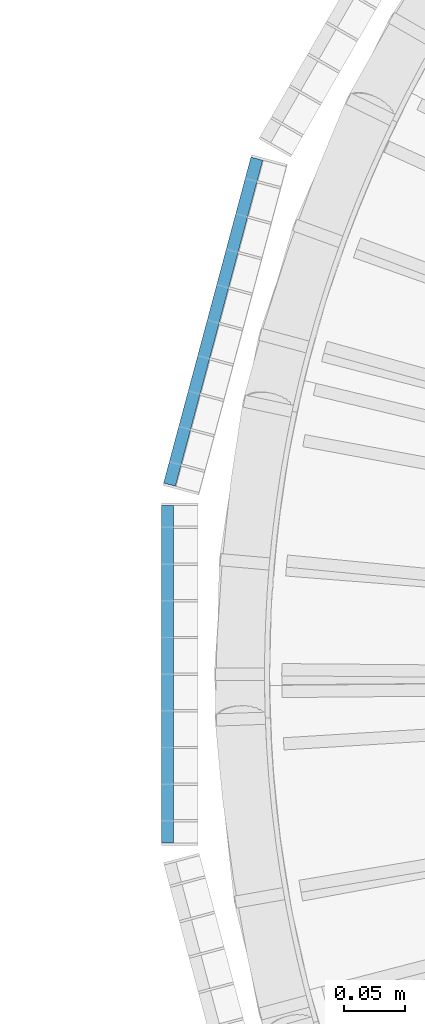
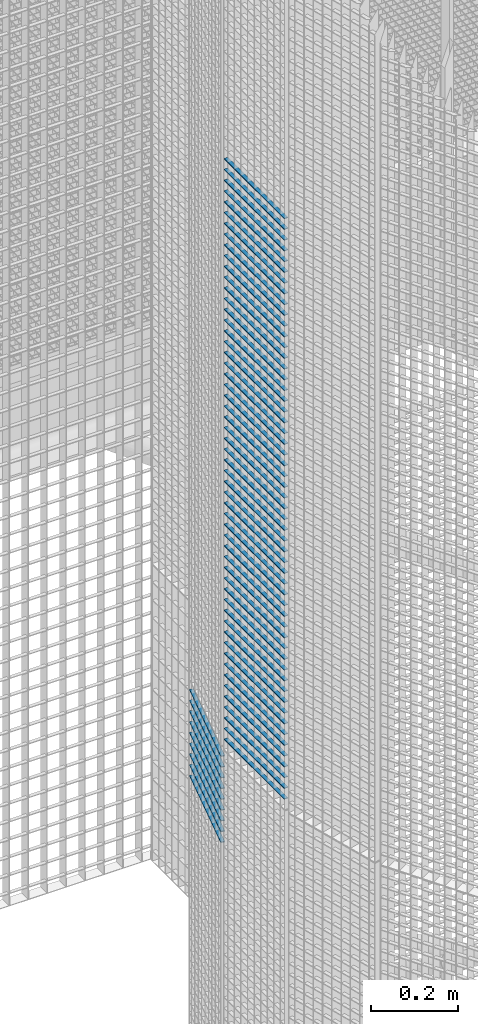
# One storey, part 205 of 1183: 64 beams, 2 elements without a shape of their own.
"""IFC2X3 building model written with IfcOpenShell, lengths in millimetres."""

from ifc_helpers import new_model, si_unit, frame, origin_with_axes, origin_2d_with_axis, place, context, subcontext, project, spatial, rectangle, extrude, material, type_object, element, aggregate, save


model = new_model("IFC2X3")

# Units and contexts
model_context = context("Model", 3, precision=1e-05, world=origin_with_axes())
body_context = subcontext(model_context, "Body", "Model", "MODEL_VIEW")
ifc_project = project(units=[si_unit("LENGTHUNIT", "METRE", prefix="MILLI"), si_unit("AREAUNIT", "SQUARE_METRE"), si_unit("VOLUMEUNIT", "CUBIC_METRE"), si_unit("MASSUNIT", "GRAM", prefix="KILO"), si_unit("TIMEUNIT", "SECOND"), si_unit("PLANEANGLEUNIT", "RADIAN"), si_unit("SOLIDANGLEUNIT", "STERADIAN"), si_unit("THERMODYNAMICTEMPERATUREUNIT", "DEGREE_CELSIUS"), si_unit("LUMINOUSINTENSITYUNIT", "LUMEN")], contexts=[model_context])

# Site, building, storey
site_placement = place(None, origin_with_axes())
site = spatial("IfcSite", under=ifc_project, at=site_placement, Name="Undefined", CompositionType="ELEMENT")
building_placement = place(site_placement, origin_with_axes())
building = spatial("IfcBuilding", under=site, at=building_placement, Name="Undefined", CompositionType="ELEMENT")
storey_placement = place(building_placement, origin_with_axes())
storey = spatial("IfcBuildingStorey", under=building, at=storey_placement, Name="Undefined", CompositionType="ELEMENT", Elevation=0.0)

# Assembly, beams
assembly_1_placement = place(storey_placement, origin_with_axes())
assembly_1 = element("IfcElementAssembly", 1, at=assembly_1_placement, inside=storey, Name="BORDURE", AssemblyPlace="NOTDEFINED", PredefinedType="NOTDEFINED")
ifc_material = material(Name="STEEL/S235JR")
beam_type = type_object("IfcBeamType", Name="PL2*10", PredefinedType="NOTDEFINED")
beam_1_placement = place(assembly_1_placement, frame((-1113.47999999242, 137.996003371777, 7650.0), z_axis=(-1.0, 0.0, 0.0), x_axis=(0.0, -1.0, 0.0)))
beam_1 = element("IfcBeam", 2, at=beam_1_placement, type_object=beam_type, material=ifc_material, Name="ENTRETOISE", context=body_context, shape_type="SweptSolid", body=[
    extrude(rectangle(XDim=2.0, YDim=10.0, at=origin_2d_with_axis()), frame((275.999999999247, 9.09494701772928e-13, 1.53210777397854e-14), z_axis=(-1.0, 0.0, 0.0), x_axis=(0.0, -1.0, 0.0)), (0.0, 0.0, 1.0), 276.0),
])
beam_2_placement = place(assembly_1_placement, frame((-1113.47999999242, 137.996003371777, 7620.0), z_axis=(-1.0, 0.0, 0.0), x_axis=(0.0, -1.0, 0.0)))
beam_2 = element("IfcBeam", 3, at=beam_2_placement, type_object=beam_type, material=ifc_material, Name="ENTRETOISE", context=body_context, shape_type="SweptSolid", body=[
    extrude(rectangle(XDim=2.0, YDim=10.0, at=origin_2d_with_axis()), frame((275.999999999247, 9.09494701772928e-13, 1.53210777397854e-14), z_axis=(-1.0, 0.0, 0.0), x_axis=(0.0, -1.0, 0.0)), (0.0, 0.0, 1.0), 276.0),
])
beam_3_placement = place(assembly_1_placement, frame((-1113.47999999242, 137.996003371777, 7590.0), z_axis=(-1.0, 0.0, 0.0), x_axis=(0.0, -1.0, 0.0)))
beam_3 = element("IfcBeam", 4, at=beam_3_placement, type_object=beam_type, material=ifc_material, Name="ENTRETOISE", context=body_context, shape_type="SweptSolid", body=[
    extrude(rectangle(XDim=2.0, YDim=10.0, at=origin_2d_with_axis()), frame((275.999999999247, 9.09494701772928e-13, 1.53210777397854e-14), z_axis=(-1.0, 0.0, 0.0), x_axis=(0.0, -1.0, 0.0)), (0.0, 0.0, 1.0), 276.0),
])
beam_4_placement = place(assembly_1_placement, frame((-1113.47999999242, 137.996003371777, 7560.0), z_axis=(-1.0, 0.0, 0.0), x_axis=(0.0, -1.0, 0.0)))
beam_4 = element("IfcBeam", 5, at=beam_4_placement, type_object=beam_type, material=ifc_material, Name="ENTRETOISE", context=body_context, shape_type="SweptSolid", body=[
    extrude(rectangle(XDim=2.0, YDim=10.0, at=origin_2d_with_axis()), frame((275.999999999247, 9.09494701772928e-13, 1.53210777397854e-14), z_axis=(-1.0, 0.0, 0.0), x_axis=(0.0, -1.0, 0.0)), (0.0, 0.0, 1.0), 276.0),
])
beam_5_placement = place(assembly_1_placement, frame((-1113.47999999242, 137.996003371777, 7530.0), z_axis=(-1.0, 0.0, 0.0), x_axis=(0.0, -1.0, 0.0)))
beam_5 = element("IfcBeam", 6, at=beam_5_placement, type_object=beam_type, material=ifc_material, Name="ENTRETOISE", context=body_context, shape_type="SweptSolid", body=[
    extrude(rectangle(XDim=2.0, YDim=10.0, at=origin_2d_with_axis()), frame((275.999999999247, 9.09494701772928e-13, 1.53210777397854e-14), z_axis=(-1.0, 0.0, 0.0), x_axis=(0.0, -1.0, 0.0)), (0.0, 0.0, 1.0), 276.0),
])
beam_6_placement = place(assembly_1_placement, frame((-1113.47999999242, 137.996003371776, 7500.0), z_axis=(-1.0, 0.0, 0.0), x_axis=(0.0, -1.0, 0.0)))
beam_6 = element("IfcBeam", 7, at=beam_6_placement, type_object=beam_type, material=ifc_material, Name="ENTRETOISE", context=body_context, shape_type="SweptSolid", body=[
    extrude(rectangle(XDim=2.0, YDim=10.0, at=origin_2d_with_axis()), frame((275.999999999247, 9.09494701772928e-13, 1.53210777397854e-14), z_axis=(-1.0, 0.0, 0.0), x_axis=(0.0, -1.0, 0.0)), (0.0, 0.0, 1.0), 276.0),
])
beam_7_placement = place(assembly_1_placement, frame((-1113.47999999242, 137.996003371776, 7470.0), z_axis=(-1.0, 0.0, 0.0), x_axis=(0.0, -1.0, 0.0)))
beam_7 = element("IfcBeam", 8, at=beam_7_placement, type_object=beam_type, material=ifc_material, Name="ENTRETOISE", context=body_context, shape_type="SweptSolid", body=[
    extrude(rectangle(XDim=2.0, YDim=10.0, at=origin_2d_with_axis()), frame((275.999999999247, 9.09494701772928e-13, 1.53210777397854e-14), z_axis=(-1.0, 0.0, 0.0), x_axis=(0.0, -1.0, 0.0)), (0.0, 0.0, 1.0), 276.0),
])
beam_8_placement = place(assembly_1_placement, frame((-1113.47999999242, 137.996003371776, 7440.0), z_axis=(-1.0, 0.0, 0.0), x_axis=(0.0, -1.0, 0.0)))
beam_8 = element("IfcBeam", 9, at=beam_8_placement, type_object=beam_type, material=ifc_material, Name="ENTRETOISE", context=body_context, shape_type="SweptSolid", body=[
    extrude(rectangle(XDim=2.0, YDim=10.0, at=origin_2d_with_axis()), frame((275.999999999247, 9.09494701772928e-13, 1.53210777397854e-14), z_axis=(-1.0, 0.0, 0.0), x_axis=(0.0, -1.0, 0.0)), (0.0, 0.0, 1.0), 276.0),
])
beam_9_placement = place(assembly_1_placement, frame((-1113.47999999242, 137.996003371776, 7410.0), z_axis=(-1.0, 0.0, 0.0), x_axis=(0.0, -1.0, 0.0)))
beam_9 = element("IfcBeam", 10, at=beam_9_placement, type_object=beam_type, material=ifc_material, Name="ENTRETOISE", context=body_context, shape_type="SweptSolid", body=[
    extrude(rectangle(XDim=2.0, YDim=10.0, at=origin_2d_with_axis()), frame((275.999999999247, 9.09494701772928e-13, 1.53210777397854e-14), z_axis=(-1.0, 0.0, 0.0), x_axis=(0.0, -1.0, 0.0)), (0.0, 0.0, 1.0), 276.0),
])
beam_10_placement = place(assembly_1_placement, frame((-1113.47999999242, 137.996003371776, 7380.0), z_axis=(-1.0, 0.0, 0.0), x_axis=(0.0, -1.0, 0.0)))
beam_10 = element("IfcBeam", 11, at=beam_10_placement, type_object=beam_type, material=ifc_material, Name="ENTRETOISE", context=body_context, shape_type="SweptSolid", body=[
    extrude(rectangle(XDim=2.0, YDim=10.0, at=origin_2d_with_axis()), frame((275.999999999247, 9.09494701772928e-13, 1.53210777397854e-14), z_axis=(-1.0, 0.0, 0.0), x_axis=(0.0, -1.0, 0.0)), (0.0, 0.0, 1.0), 276.0),
])
beam_11_placement = place(assembly_1_placement, frame((-1113.47999999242, 137.996003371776, 7350.0), z_axis=(-1.0, 0.0, 0.0), x_axis=(0.0, -1.0, 0.0)))
beam_11 = element("IfcBeam", 12, at=beam_11_placement, type_object=beam_type, material=ifc_material, Name="ENTRETOISE", context=body_context, shape_type="SweptSolid", body=[
    extrude(rectangle(XDim=2.0, YDim=10.0, at=origin_2d_with_axis()), frame((275.999999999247, 9.09494701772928e-13, 1.53210777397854e-14), z_axis=(-1.0, 0.0, 0.0), x_axis=(0.0, -1.0, 0.0)), (0.0, 0.0, 1.0), 276.0),
])
beam_12_placement = place(assembly_1_placement, frame((-1113.47999999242, 137.996003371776, 7320.0), z_axis=(-1.0, 0.0, 0.0), x_axis=(0.0, -1.0, 0.0)))
beam_12 = element("IfcBeam", 13, at=beam_12_placement, type_object=beam_type, material=ifc_material, Name="ENTRETOISE", context=body_context, shape_type="SweptSolid", body=[
    extrude(rectangle(XDim=2.0, YDim=10.0, at=origin_2d_with_axis()), frame((275.999999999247, 9.09494701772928e-13, 1.53210777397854e-14), z_axis=(-1.0, 0.0, 0.0), x_axis=(0.0, -1.0, 0.0)), (0.0, 0.0, 1.0), 276.0),
])
beam_13_placement = place(assembly_1_placement, frame((-1113.47999999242, 137.996003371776, 7290.0), z_axis=(-1.0, 0.0, 0.0), x_axis=(0.0, -1.0, 0.0)))
beam_13 = element("IfcBeam", 14, at=beam_13_placement, type_object=beam_type, material=ifc_material, Name="ENTRETOISE", context=body_context, shape_type="SweptSolid", body=[
    extrude(rectangle(XDim=2.0, YDim=10.0, at=origin_2d_with_axis()), frame((275.999999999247, 9.09494701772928e-13, 1.53210777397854e-14), z_axis=(-1.0, 0.0, 0.0), x_axis=(0.0, -1.0, 0.0)), (0.0, 0.0, 1.0), 276.0),
])
beam_14_placement = place(assembly_1_placement, frame((-1113.47999999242, 137.996003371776, 7260.0), z_axis=(-1.0, 0.0, 0.0), x_axis=(0.0, -1.0, 0.0)))
beam_14 = element("IfcBeam", 15, at=beam_14_placement, type_object=beam_type, material=ifc_material, Name="ENTRETOISE", context=body_context, shape_type="SweptSolid", body=[
    extrude(rectangle(XDim=2.0, YDim=10.0, at=origin_2d_with_axis()), frame((275.999999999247, 9.09494701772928e-13, 1.53210777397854e-14), z_axis=(-1.0, 0.0, 0.0), x_axis=(0.0, -1.0, 0.0)), (0.0, 0.0, 1.0), 276.0),
])
beam_15_placement = place(assembly_1_placement, frame((-1113.47999999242, 137.996003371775, 7230.0), z_axis=(-1.0, 0.0, 0.0), x_axis=(0.0, -1.0, 0.0)))
beam_15 = element("IfcBeam", 16, at=beam_15_placement, type_object=beam_type, material=ifc_material, Name="ENTRETOISE", context=body_context, shape_type="SweptSolid", body=[
    extrude(rectangle(XDim=2.0, YDim=10.0, at=origin_2d_with_axis()), frame((275.999999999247, 9.09494701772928e-13, 1.53210777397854e-14), z_axis=(-1.0, 0.0, 0.0), x_axis=(0.0, -1.0, 0.0)), (0.0, 0.0, 1.0), 276.0),
])
beam_16_placement = place(assembly_1_placement, frame((-1113.47999999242, 137.996003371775, 7200.0), z_axis=(-1.0, 0.0, 0.0), x_axis=(0.0, -1.0, 0.0)))
beam_16 = element("IfcBeam", 17, at=beam_16_placement, type_object=beam_type, material=ifc_material, Name="ENTRETOISE", context=body_context, shape_type="SweptSolid", body=[
    extrude(rectangle(XDim=2.0, YDim=10.0, at=origin_2d_with_axis()), frame((275.999999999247, 9.09494701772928e-13, 1.53210777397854e-14), z_axis=(-1.0, 0.0, 0.0), x_axis=(0.0, -1.0, 0.0)), (0.0, 0.0, 1.0), 276.0),
])
beam_17_placement = place(assembly_1_placement, frame((-1113.47999999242, 137.996003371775, 7170.0), z_axis=(-1.0, 0.0, 0.0), x_axis=(0.0, -1.0, 0.0)))
beam_17 = element("IfcBeam", 18, at=beam_17_placement, type_object=beam_type, material=ifc_material, Name="ENTRETOISE", context=body_context, shape_type="SweptSolid", body=[
    extrude(rectangle(XDim=2.0, YDim=10.0, at=origin_2d_with_axis()), frame((275.999999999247, 9.09494701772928e-13, 1.53210777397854e-14), z_axis=(-1.0, 0.0, 0.0), x_axis=(0.0, -1.0, 0.0)), (0.0, 0.0, 1.0), 276.0),
])
beam_18_placement = place(assembly_1_placement, frame((-1113.47999999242, 137.996003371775, 7140.0), z_axis=(-1.0, 0.0, 0.0), x_axis=(0.0, -1.0, 0.0)))
beam_18 = element("IfcBeam", 19, at=beam_18_placement, type_object=beam_type, material=ifc_material, Name="ENTRETOISE", context=body_context, shape_type="SweptSolid", body=[
    extrude(rectangle(XDim=2.0, YDim=10.0, at=origin_2d_with_axis()), frame((275.999999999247, 9.09494701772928e-13, 1.53210777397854e-14), z_axis=(-1.0, 0.0, 0.0), x_axis=(0.0, -1.0, 0.0)), (0.0, 0.0, 1.0), 276.0),
])
beam_19_placement = place(assembly_1_placement, frame((-1113.47999999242, 137.996003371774, 6720.0), z_axis=(-1.0, 0.0, 0.0), x_axis=(0.0, -1.0, 0.0)))
beam_19 = element("IfcBeam", 20, at=beam_19_placement, type_object=beam_type, material=ifc_material, Name="ENTRETOISE", context=body_context, shape_type="SweptSolid", body=[
    extrude(rectangle(XDim=2.0, YDim=10.0, at=origin_2d_with_axis()), frame((275.999999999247, 9.09494701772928e-13, 1.53210777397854e-14), z_axis=(-1.0, 0.0, 0.0), x_axis=(0.0, -1.0, 0.0)), (0.0, 0.0, 1.0), 276.0),
])
beam_20_placement = place(assembly_1_placement, frame((-1113.47999999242, 137.996003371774, 6690.0), z_axis=(-1.0, 0.0, 0.0), x_axis=(0.0, -1.0, 0.0)))
beam_20 = element("IfcBeam", 21, at=beam_20_placement, type_object=beam_type, material=ifc_material, Name="ENTRETOISE", context=body_context, shape_type="SweptSolid", body=[
    extrude(rectangle(XDim=2.0, YDim=10.0, at=origin_2d_with_axis()), frame((275.999999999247, 9.09494701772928e-13, 1.53210777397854e-14), z_axis=(-1.0, 0.0, 0.0), x_axis=(0.0, -1.0, 0.0)), (0.0, 0.0, 1.0), 276.0),
])
beam_21_placement = place(assembly_1_placement, frame((-1113.47999999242, 137.996003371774, 6750.0), z_axis=(-1.0, 0.0, 0.0), x_axis=(0.0, -1.0, 0.0)))
beam_21 = element("IfcBeam", 22, at=beam_21_placement, type_object=beam_type, material=ifc_material, Name="ENTRETOISE", context=body_context, shape_type="SweptSolid", body=[
    extrude(rectangle(XDim=2.0, YDim=10.0, at=origin_2d_with_axis()), frame((275.999999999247, 9.09494701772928e-13, 1.53210777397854e-14), z_axis=(-1.0, 0.0, 0.0), x_axis=(0.0, -1.0, 0.0)), (0.0, 0.0, 1.0), 276.0),
])
beam_22_placement = place(assembly_1_placement, frame((-1113.47999999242, 137.996003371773, 6660.0), z_axis=(-1.0, 0.0, 0.0), x_axis=(0.0, -1.0, 0.0)))
beam_22 = element("IfcBeam", 23, at=beam_22_placement, type_object=beam_type, material=ifc_material, Name="ENTRETOISE", context=body_context, shape_type="SweptSolid", body=[
    extrude(rectangle(XDim=2.0, YDim=10.0, at=origin_2d_with_axis()), frame((275.999999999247, 9.09494701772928e-13, 1.53210777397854e-14), z_axis=(-1.0, 0.0, 0.0), x_axis=(0.0, -1.0, 0.0)), (0.0, 0.0, 1.0), 276.0),
])
beam_23_placement = place(assembly_1_placement, frame((-1113.47999999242, 137.996003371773, 6630.0), z_axis=(-1.0, 0.0, 0.0), x_axis=(0.0, -1.0, 0.0)))
beam_23 = element("IfcBeam", 24, at=beam_23_placement, type_object=beam_type, material=ifc_material, Name="ENTRETOISE", context=body_context, shape_type="SweptSolid", body=[
    extrude(rectangle(XDim=2.0, YDim=10.0, at=origin_2d_with_axis()), frame((275.999999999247, 9.09494701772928e-13, 1.53210777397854e-14), z_axis=(-1.0, 0.0, 0.0), x_axis=(0.0, -1.0, 0.0)), (0.0, 0.0, 1.0), 276.0),
])
beam_24_placement = place(assembly_1_placement, frame((-1113.47999999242, 137.996003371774, 6780.0), z_axis=(-1.0, 0.0, 0.0), x_axis=(0.0, -1.0, 0.0)))
beam_24 = element("IfcBeam", 25, at=beam_24_placement, type_object=beam_type, material=ifc_material, Name="ENTRETOISE", context=body_context, shape_type="SweptSolid", body=[
    extrude(rectangle(XDim=2.0, YDim=10.0, at=origin_2d_with_axis()), frame((275.999999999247, 9.09494701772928e-13, 1.53210777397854e-14), z_axis=(-1.0, 0.0, 0.0), x_axis=(0.0, -1.0, 0.0)), (0.0, 0.0, 1.0), 276.0),
])
beam_25_placement = place(assembly_1_placement, frame((-1113.47999999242, 137.996003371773, 6600.0), z_axis=(-1.0, 0.0, 0.0), x_axis=(0.0, -1.0, 0.0)))
beam_25 = element("IfcBeam", 26, at=beam_25_placement, type_object=beam_type, material=ifc_material, Name="ENTRETOISE", context=body_context, shape_type="SweptSolid", body=[
    extrude(rectangle(XDim=2.0, YDim=10.0, at=origin_2d_with_axis()), frame((275.999999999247, 9.09494701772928e-13, 1.53210777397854e-14), z_axis=(-1.0, 0.0, 0.0), x_axis=(0.0, -1.0, 0.0)), (0.0, 0.0, 1.0), 276.0),
])
beam_26_placement = place(assembly_1_placement, frame((-1113.47999999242, 137.996003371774, 6810.0), z_axis=(-1.0, 0.0, 0.0), x_axis=(0.0, -1.0, 0.0)))
beam_26 = element("IfcBeam", 27, at=beam_26_placement, type_object=beam_type, material=ifc_material, Name="ENTRETOISE", context=body_context, shape_type="SweptSolid", body=[
    extrude(rectangle(XDim=2.0, YDim=10.0, at=origin_2d_with_axis()), frame((275.999999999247, 9.09494701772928e-13, 1.53210777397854e-14), z_axis=(-1.0, 0.0, 0.0), x_axis=(0.0, -1.0, 0.0)), (0.0, 0.0, 1.0), 276.0),
])
beam_27_placement = place(assembly_1_placement, frame((-1113.47999999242, 137.996003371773, 6570.0), z_axis=(-1.0, 0.0, 0.0), x_axis=(0.0, -1.0, 0.0)))
beam_27 = element("IfcBeam", 28, at=beam_27_placement, type_object=beam_type, material=ifc_material, Name="ENTRETOISE", context=body_context, shape_type="SweptSolid", body=[
    extrude(rectangle(XDim=2.0, YDim=10.0, at=origin_2d_with_axis()), frame((275.999999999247, 9.09494701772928e-13, 1.53210777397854e-14), z_axis=(-1.0, 0.0, 0.0), x_axis=(0.0, -1.0, 0.0)), (0.0, 0.0, 1.0), 276.0),
])
beam_28_placement = place(assembly_1_placement, frame((-1113.47999999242, 137.996003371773, 6540.0), z_axis=(-1.0, 0.0, 0.0), x_axis=(0.0, -1.0, 0.0)))
beam_28 = element("IfcBeam", 29, at=beam_28_placement, type_object=beam_type, material=ifc_material, Name="ENTRETOISE", context=body_context, shape_type="SweptSolid", body=[
    extrude(rectangle(XDim=2.0, YDim=10.0, at=origin_2d_with_axis()), frame((275.999999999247, 9.09494701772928e-13, 1.53210777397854e-14), z_axis=(-1.0, 0.0, 0.0), x_axis=(0.0, -1.0, 0.0)), (0.0, 0.0, 1.0), 276.0),
])
beam_29_placement = place(assembly_1_placement, frame((-1113.47999999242, 137.996003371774, 6840.0), z_axis=(-1.0, 0.0, 0.0), x_axis=(0.0, -1.0, 0.0)))
beam_29 = element("IfcBeam", 30, at=beam_29_placement, type_object=beam_type, material=ifc_material, Name="ENTRETOISE", context=body_context, shape_type="SweptSolid", body=[
    extrude(rectangle(XDim=2.0, YDim=10.0, at=origin_2d_with_axis()), frame((275.999999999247, 9.09494701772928e-13, 1.53210777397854e-14), z_axis=(-1.0, 0.0, 0.0), x_axis=(0.0, -1.0, 0.0)), (0.0, 0.0, 1.0), 276.0),
])
beam_30_placement = place(assembly_1_placement, frame((-1113.47999999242, 137.996003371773, 6510.0), z_axis=(-1.0, 0.0, 0.0), x_axis=(0.0, -1.0, 0.0)))
beam_30 = element("IfcBeam", 31, at=beam_30_placement, type_object=beam_type, material=ifc_material, Name="ENTRETOISE", context=body_context, shape_type="SweptSolid", body=[
    extrude(rectangle(XDim=2.0, YDim=10.0, at=origin_2d_with_axis()), frame((275.999999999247, 9.09494701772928e-13, 1.53210777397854e-14), z_axis=(-1.0, 0.0, 0.0), x_axis=(0.0, -1.0, 0.0)), (0.0, 0.0, 1.0), 276.0),
])
beam_31_placement = place(assembly_1_placement, frame((-1113.47999999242, 137.996003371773, 6480.0), z_axis=(-1.0, 0.0, 0.0), x_axis=(0.0, -1.0, 0.0)))
beam_31 = element("IfcBeam", 32, at=beam_31_placement, type_object=beam_type, material=ifc_material, Name="ENTRETOISE", context=body_context, shape_type="SweptSolid", body=[
    extrude(rectangle(XDim=2.0, YDim=10.0, at=origin_2d_with_axis()), frame((275.999999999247, 9.09494701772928e-13, 1.53210777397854e-14), z_axis=(-1.0, 0.0, 0.0), x_axis=(0.0, -1.0, 0.0)), (0.0, 0.0, 1.0), 276.0),
])
beam_32_placement = place(assembly_1_placement, frame((-1113.47999999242, 137.996003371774, 6870.0), z_axis=(-1.0, 0.0, 0.0), x_axis=(0.0, -1.0, 0.0)))
beam_32 = element("IfcBeam", 33, at=beam_32_placement, type_object=beam_type, material=ifc_material, Name="ENTRETOISE", context=body_context, shape_type="SweptSolid", body=[
    extrude(rectangle(XDim=2.0, YDim=10.0, at=origin_2d_with_axis()), frame((275.999999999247, 9.09494701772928e-13, 1.53210777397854e-14), z_axis=(-1.0, 0.0, 0.0), x_axis=(0.0, -1.0, 0.0)), (0.0, 0.0, 1.0), 276.0),
])
beam_33_placement = place(assembly_1_placement, frame((-1113.47999999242, 137.996003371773, 6450.0), z_axis=(-1.0, 0.0, 0.0), x_axis=(0.0, -1.0, 0.0)))
beam_33 = element("IfcBeam", 34, at=beam_33_placement, type_object=beam_type, material=ifc_material, Name="ENTRETOISE", context=body_context, shape_type="SweptSolid", body=[
    extrude(rectangle(XDim=2.0, YDim=10.0, at=origin_2d_with_axis()), frame((275.999999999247, 9.09494701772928e-13, 1.53210777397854e-14), z_axis=(-1.0, 0.0, 0.0), x_axis=(0.0, -1.0, 0.0)), (0.0, 0.0, 1.0), 276.0),
])
beam_34_placement = place(assembly_1_placement, frame((-1113.47999999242, 137.996003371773, 6420.0), z_axis=(-1.0, 0.0, 0.0), x_axis=(0.0, -1.0, 0.0)))
beam_34 = element("IfcBeam", 35, at=beam_34_placement, type_object=beam_type, material=ifc_material, Name="ENTRETOISE", context=body_context, shape_type="SweptSolid", body=[
    extrude(rectangle(XDim=2.0, YDim=10.0, at=origin_2d_with_axis()), frame((275.999999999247, 9.09494701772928e-13, 1.53210777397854e-14), z_axis=(-1.0, 0.0, 0.0), x_axis=(0.0, -1.0, 0.0)), (0.0, 0.0, 1.0), 276.0),
])
beam_35_placement = place(assembly_1_placement, frame((-1113.47999999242, 137.996003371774, 6900.0), z_axis=(-1.0, 0.0, 0.0), x_axis=(0.0, -1.0, 0.0)))
beam_35 = element("IfcBeam", 36, at=beam_35_placement, type_object=beam_type, material=ifc_material, Name="ENTRETOISE", context=body_context, shape_type="SweptSolid", body=[
    extrude(rectangle(XDim=2.0, YDim=10.0, at=origin_2d_with_axis()), frame((275.999999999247, 9.09494701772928e-13, 1.53210777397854e-14), z_axis=(-1.0, 0.0, 0.0), x_axis=(0.0, -1.0, 0.0)), (0.0, 0.0, 1.0), 276.0),
])
beam_36_placement = place(assembly_1_placement, frame((-1113.47999999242, 137.996003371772, 6390.0), z_axis=(-1.0, 0.0, 0.0), x_axis=(0.0, -1.0, 0.0)))
beam_36 = element("IfcBeam", 37, at=beam_36_placement, type_object=beam_type, material=ifc_material, Name="ENTRETOISE", context=body_context, shape_type="SweptSolid", body=[
    extrude(rectangle(XDim=2.0, YDim=10.0, at=origin_2d_with_axis()), frame((275.999999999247, 9.09494701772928e-13, 1.53210777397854e-14), z_axis=(-1.0, 0.0, 0.0), x_axis=(0.0, -1.0, 0.0)), (0.0, 0.0, 1.0), 276.0),
])
beam_37_placement = place(assembly_1_placement, frame((-1113.47999999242, 137.996003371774, 6930.0), z_axis=(-1.0, 0.0, 0.0), x_axis=(0.0, -1.0, 0.0)))
beam_37 = element("IfcBeam", 38, at=beam_37_placement, type_object=beam_type, material=ifc_material, Name="ENTRETOISE", context=body_context, shape_type="SweptSolid", body=[
    extrude(rectangle(XDim=2.0, YDim=10.0, at=origin_2d_with_axis()), frame((275.999999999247, 9.09494701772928e-13, 1.53210777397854e-14), z_axis=(-1.0, 0.0, 0.0), x_axis=(0.0, -1.0, 0.0)), (0.0, 0.0, 1.0), 276.0),
])
beam_38_placement = place(assembly_1_placement, frame((-1113.47999999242, 137.996003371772, 6360.0), z_axis=(-1.0, 0.0, 0.0), x_axis=(0.0, -1.0, 0.0)))
beam_38 = element("IfcBeam", 39, at=beam_38_placement, type_object=beam_type, material=ifc_material, Name="ENTRETOISE", context=body_context, shape_type="SweptSolid", body=[
    extrude(rectangle(XDim=2.0, YDim=10.0, at=origin_2d_with_axis()), frame((275.999999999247, 9.09494701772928e-13, 1.53210777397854e-14), z_axis=(-1.0, 0.0, 0.0), x_axis=(0.0, -1.0, 0.0)), (0.0, 0.0, 1.0), 276.0),
])
beam_39_placement = place(assembly_1_placement, frame((-1113.47999999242, 137.996003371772, 6330.0), z_axis=(-1.0, 0.0, 0.0), x_axis=(0.0, -1.0, 0.0)))
beam_39 = element("IfcBeam", 40, at=beam_39_placement, type_object=beam_type, material=ifc_material, Name="ENTRETOISE", context=body_context, shape_type="SweptSolid", body=[
    extrude(rectangle(XDim=2.0, YDim=10.0, at=origin_2d_with_axis()), frame((275.999999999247, 9.09494701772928e-13, 1.53210777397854e-14), z_axis=(-1.0, 0.0, 0.0), x_axis=(0.0, -1.0, 0.0)), (0.0, 0.0, 1.0), 276.0),
])
beam_40_placement = place(assembly_1_placement, frame((-1113.47999999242, 137.996003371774, 6960.0), z_axis=(-1.0, 0.0, 0.0), x_axis=(0.0, -1.0, 0.0)))
beam_40 = element("IfcBeam", 41, at=beam_40_placement, type_object=beam_type, material=ifc_material, Name="ENTRETOISE", context=body_context, shape_type="SweptSolid", body=[
    extrude(rectangle(XDim=2.0, YDim=10.0, at=origin_2d_with_axis()), frame((275.999999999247, 9.09494701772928e-13, 1.53210777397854e-14), z_axis=(-1.0, 0.0, 0.0), x_axis=(0.0, -1.0, 0.0)), (0.0, 0.0, 1.0), 276.0),
])
beam_41_placement = place(assembly_1_placement, frame((-1113.47999999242, 137.996003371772, 6300.0), z_axis=(-1.0, 0.0, 0.0), x_axis=(0.0, -1.0, 0.0)))
beam_41 = element("IfcBeam", 42, at=beam_41_placement, type_object=beam_type, material=ifc_material, Name="ENTRETOISE", context=body_context, shape_type="SweptSolid", body=[
    extrude(rectangle(XDim=2.0, YDim=10.0, at=origin_2d_with_axis()), frame((275.999999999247, 9.09494701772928e-13, 1.53210777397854e-14), z_axis=(-1.0, 0.0, 0.0), x_axis=(0.0, -1.0, 0.0)), (0.0, 0.0, 1.0), 276.0),
])
beam_42_placement = place(assembly_1_placement, frame((-1113.47999999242, 137.996003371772, 6270.0), z_axis=(-1.0, 0.0, 0.0), x_axis=(0.0, -1.0, 0.0)))
beam_42 = element("IfcBeam", 43, at=beam_42_placement, type_object=beam_type, material=ifc_material, Name="ENTRETOISE", context=body_context, shape_type="SweptSolid", body=[
    extrude(rectangle(XDim=2.0, YDim=10.0, at=origin_2d_with_axis()), frame((275.999999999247, 9.09494701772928e-13, 1.53210777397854e-14), z_axis=(-1.0, 0.0, 0.0), x_axis=(0.0, -1.0, 0.0)), (0.0, 0.0, 1.0), 276.0),
])
beam_43_placement = place(assembly_1_placement, frame((-1113.47999999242, 137.996003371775, 6990.0), z_axis=(-1.0, 0.0, 0.0), x_axis=(0.0, -1.0, 0.0)))
beam_43 = element("IfcBeam", 44, at=beam_43_placement, type_object=beam_type, material=ifc_material, Name="ENTRETOISE", context=body_context, shape_type="SweptSolid", body=[
    extrude(rectangle(XDim=2.0, YDim=10.0, at=origin_2d_with_axis()), frame((275.999999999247, 9.09494701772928e-13, 1.53210777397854e-14), z_axis=(-1.0, 0.0, 0.0), x_axis=(0.0, -1.0, 0.0)), (0.0, 0.0, 1.0), 276.0),
])
beam_44_placement = place(assembly_1_placement, frame((-1113.47999999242, 137.996003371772, 6240.0), z_axis=(-1.0, 0.0, 0.0), x_axis=(0.0, -1.0, 0.0)))
beam_44 = element("IfcBeam", 45, at=beam_44_placement, type_object=beam_type, material=ifc_material, Name="ENTRETOISE", context=body_context, shape_type="SweptSolid", body=[
    extrude(rectangle(XDim=2.0, YDim=10.0, at=origin_2d_with_axis()), frame((275.999999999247, 9.09494701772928e-13, 1.53210777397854e-14), z_axis=(-1.0, 0.0, 0.0), x_axis=(0.0, -1.0, 0.0)), (0.0, 0.0, 1.0), 276.0),
])
beam_45_placement = place(assembly_1_placement, frame((-1113.47999999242, 137.996003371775, 7020.0), z_axis=(-1.0, 0.0, 0.0), x_axis=(0.0, -1.0, 0.0)))
beam_45 = element("IfcBeam", 46, at=beam_45_placement, type_object=beam_type, material=ifc_material, Name="ENTRETOISE", context=body_context, shape_type="SweptSolid", body=[
    extrude(rectangle(XDim=2.0, YDim=10.0, at=origin_2d_with_axis()), frame((275.999999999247, 9.09494701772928e-13, 1.53210777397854e-14), z_axis=(-1.0, 0.0, 0.0), x_axis=(0.0, -1.0, 0.0)), (0.0, 0.0, 1.0), 276.0),
])
beam_46_placement = place(assembly_1_placement, frame((-1113.47999999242, 137.996003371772, 6210.0), z_axis=(-1.0, 0.0, 0.0), x_axis=(0.0, -1.0, 0.0)))
beam_46 = element("IfcBeam", 47, at=beam_46_placement, type_object=beam_type, material=ifc_material, Name="ENTRETOISE", context=body_context, shape_type="SweptSolid", body=[
    extrude(rectangle(XDim=2.0, YDim=10.0, at=origin_2d_with_axis()), frame((275.999999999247, 9.09494701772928e-13, 1.53210777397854e-14), z_axis=(-1.0, 0.0, 0.0), x_axis=(0.0, -1.0, 0.0)), (0.0, 0.0, 1.0), 276.0),
])
beam_47_placement = place(assembly_1_placement, frame((-1113.47999999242, 137.996003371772, 6180.0), z_axis=(-1.0, 0.0, 0.0), x_axis=(0.0, -1.0, 0.0)))
beam_47 = element("IfcBeam", 48, at=beam_47_placement, type_object=beam_type, material=ifc_material, Name="ENTRETOISE", context=body_context, shape_type="SweptSolid", body=[
    extrude(rectangle(XDim=2.0, YDim=10.0, at=origin_2d_with_axis()), frame((275.999999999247, 9.09494701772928e-13, 1.53210777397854e-14), z_axis=(-1.0, 0.0, 0.0), x_axis=(0.0, -1.0, 0.0)), (0.0, 0.0, 1.0), 276.0),
])
beam_48_placement = place(assembly_1_placement, frame((-1113.47999999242, 137.996003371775, 7050.0), z_axis=(-1.0, 0.0, 0.0), x_axis=(0.0, -1.0, 0.0)))
beam_48 = element("IfcBeam", 49, at=beam_48_placement, type_object=beam_type, material=ifc_material, Name="ENTRETOISE", context=body_context, shape_type="SweptSolid", body=[
    extrude(rectangle(XDim=2.0, YDim=10.0, at=origin_2d_with_axis()), frame((275.999999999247, 9.09494701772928e-13, 1.53210777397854e-14), z_axis=(-1.0, 0.0, 0.0), x_axis=(0.0, -1.0, 0.0)), (0.0, 0.0, 1.0), 276.0),
])
beam_49_placement = place(assembly_1_placement, frame((-1113.47999999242, 137.996003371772, 6150.0), z_axis=(-1.0, 0.0, 0.0), x_axis=(0.0, -1.0, 0.0)))
beam_49 = element("IfcBeam", 50, at=beam_49_placement, type_object=beam_type, material=ifc_material, Name="ENTRETOISE", context=body_context, shape_type="SweptSolid", body=[
    extrude(rectangle(XDim=2.0, YDim=10.0, at=origin_2d_with_axis()), frame((275.999999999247, 9.09494701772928e-13, 1.53210777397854e-14), z_axis=(-1.0, 0.0, 0.0), x_axis=(0.0, -1.0, 0.0)), (0.0, 0.0, 1.0), 276.0),
])
beam_50_placement = place(assembly_1_placement, frame((-1113.47999999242, 137.996003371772, 6120.0), z_axis=(-1.0, 0.0, 0.0), x_axis=(0.0, -1.0, 0.0)))
beam_50 = element("IfcBeam", 51, at=beam_50_placement, type_object=beam_type, material=ifc_material, Name="ENTRETOISE", context=body_context, shape_type="SweptSolid", body=[
    extrude(rectangle(XDim=2.0, YDim=10.0, at=origin_2d_with_axis()), frame((275.999999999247, 9.09494701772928e-13, 1.53210777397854e-14), z_axis=(-1.0, 0.0, 0.0), x_axis=(0.0, -1.0, 0.0)), (0.0, 0.0, 1.0), 276.0),
])
beam_51_placement = place(assembly_1_placement, frame((-1113.47999999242, 137.996003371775, 7080.0), z_axis=(-1.0, 0.0, 0.0), x_axis=(0.0, -1.0, 0.0)))
beam_51 = element("IfcBeam", 52, at=beam_51_placement, type_object=beam_type, material=ifc_material, Name="ENTRETOISE", context=body_context, shape_type="SweptSolid", body=[
    extrude(rectangle(XDim=2.0, YDim=10.0, at=origin_2d_with_axis()), frame((275.999999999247, 9.09494701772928e-13, 1.53210777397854e-14), z_axis=(-1.0, 0.0, 0.0), x_axis=(0.0, -1.0, 0.0)), (0.0, 0.0, 1.0), 276.0),
])
beam_52_placement = place(assembly_1_placement, frame((-1113.47999999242, 137.996003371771, 6090.0), z_axis=(-1.0, 0.0, 0.0), x_axis=(0.0, -1.0, 0.0)))
beam_52 = element("IfcBeam", 53, at=beam_52_placement, type_object=beam_type, material=ifc_material, Name="ENTRETOISE", context=body_context, shape_type="SweptSolid", body=[
    extrude(rectangle(XDim=2.0, YDim=10.0, at=origin_2d_with_axis()), frame((275.999999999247, 9.09494701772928e-13, 1.53210777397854e-14), z_axis=(-1.0, 0.0, 0.0), x_axis=(0.0, -1.0, 0.0)), (0.0, 0.0, 1.0), 276.0),
])
beam_53_placement = place(assembly_1_placement, frame((-1113.47999999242, 137.996003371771, 6060.0), z_axis=(-1.0, 0.0, 0.0), x_axis=(0.0, -1.0, 0.0)))
beam_53 = element("IfcBeam", 54, at=beam_53_placement, type_object=beam_type, material=ifc_material, Name="ENTRETOISE", context=body_context, shape_type="SweptSolid", body=[
    extrude(rectangle(XDim=2.0, YDim=10.0, at=origin_2d_with_axis()), frame((275.999999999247, 9.09494701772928e-13, 1.53210777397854e-14), z_axis=(-1.0, 0.0, 0.0), x_axis=(0.0, -1.0, 0.0)), (0.0, 0.0, 1.0), 276.0),
])
beam_54_placement = place(assembly_1_placement, frame((-1113.47999999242, 137.996003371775, 7110.0), z_axis=(-1.0, 0.0, 0.0), x_axis=(0.0, -1.0, 0.0)))
beam_54 = element("IfcBeam", 55, at=beam_54_placement, type_object=beam_type, material=ifc_material, Name="ENTRETOISE", context=body_context, shape_type="SweptSolid", body=[
    extrude(rectangle(XDim=2.0, YDim=10.0, at=origin_2d_with_axis()), frame((275.999999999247, 9.09494701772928e-13, 1.53210777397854e-14), z_axis=(-1.0, 0.0, 0.0), x_axis=(0.0, -1.0, 0.0)), (0.0, 0.0, 1.0), 276.0),
])
beam_55_placement = place(assembly_1_placement, frame((-1113.47999999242, 137.99600337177, 6030.0), z_axis=(-1.0, 0.0, 0.0), x_axis=(0.0, -1.0, 0.0)))
beam_55 = element("IfcBeam", 56, at=beam_55_placement, type_object=beam_type, material=ifc_material, Name="ENTRETOISE", context=body_context, shape_type="SweptSolid", body=[
    extrude(rectangle(XDim=2.0, YDim=10.0, at=origin_2d_with_axis()), frame((275.999999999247, 9.09494701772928e-13, 1.53210777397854e-14), z_axis=(-1.0, 0.0, 0.0), x_axis=(0.0, -1.0, 0.0)), (0.0, 0.0, 1.0), 276.0),
])
aggregate(assembly_1, [beam_1, beam_2, beam_3, beam_4, beam_5, beam_6, beam_7, beam_8, beam_9, beam_10, beam_11, beam_12, beam_13, beam_14, beam_15, beam_16, beam_17, beam_18, beam_19, beam_20, beam_21, beam_22, beam_23, beam_24, beam_25, beam_26, beam_27, beam_28, beam_29, beam_30, beam_31, beam_32, beam_33, beam_34, beam_35, beam_36, beam_37, beam_38, beam_39, beam_40, beam_41, beam_42, beam_43, beam_44, beam_45, beam_46, beam_47, beam_48, beam_49, beam_50, beam_51, beam_52, beam_53, beam_54, beam_55])

assembly_2_placement = place(storey_placement, origin_with_axes())
assembly_2 = element("IfcElementAssembly", 57, at=assembly_2_placement, inside=storey, Name="BORDURE", AssemblyPlace="NOTDEFINED", PredefinedType="NOTDEFINED")
beam_56_placement = place(assembly_2_placement, frame((-1040.30888419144, 421.61803829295, 5970.0), z_axis=(-0.965925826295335, 0.258819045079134, 0.0), x_axis=(-0.258819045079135, -0.965925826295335, 0.0)))
beam_56 = element("IfcBeam", 58, at=beam_56_placement, type_object=beam_type, material=ifc_material, Name="ENTRETOISE", context=body_context, shape_type="SweptSolid", body=[
    extrude(rectangle(XDim=2.0, YDim=10.0, at=origin_2d_with_axis()), frame((275.999999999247, 9.09494701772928e-13, 1.53210777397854e-14), z_axis=(-1.0, 0.0, 0.0), x_axis=(0.0, -1.0, 0.0)), (0.0, 0.0, 1.0), 276.0),
])
beam_57_placement = place(assembly_2_placement, frame((-1040.30888419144, 421.61803829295, 5940.0), z_axis=(-0.965925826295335, 0.258819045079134, 0.0), x_axis=(-0.258819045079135, -0.965925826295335, 0.0)))
beam_57 = element("IfcBeam", 59, at=beam_57_placement, type_object=beam_type, material=ifc_material, Name="ENTRETOISE", context=body_context, shape_type="SweptSolid", body=[
    extrude(rectangle(XDim=2.0, YDim=10.0, at=origin_2d_with_axis()), frame((275.999999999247, 9.09494701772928e-13, 1.53210777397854e-14), z_axis=(-1.0, 0.0, 0.0), x_axis=(0.0, -1.0, 0.0)), (0.0, 0.0, 1.0), 276.0),
])
beam_58_placement = place(assembly_2_placement, frame((-1040.30888419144, 421.61803829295, 5910.0), z_axis=(-0.965925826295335, 0.258819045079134, 0.0), x_axis=(-0.258819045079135, -0.965925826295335, 0.0)))
beam_58 = element("IfcBeam", 60, at=beam_58_placement, type_object=beam_type, material=ifc_material, Name="ENTRETOISE", context=body_context, shape_type="SweptSolid", body=[
    extrude(rectangle(XDim=2.0, YDim=10.0, at=origin_2d_with_axis()), frame((275.999999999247, 9.09494701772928e-13, 1.53210777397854e-14), z_axis=(-1.0, 0.0, 0.0), x_axis=(0.0, -1.0, 0.0)), (0.0, 0.0, 1.0), 276.0),
])
beam_59_placement = place(assembly_2_placement, frame((-1040.30888419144, 421.61803829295, 5880.0), z_axis=(-0.965925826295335, 0.258819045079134, 0.0), x_axis=(-0.258819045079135, -0.965925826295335, 0.0)))
beam_59 = element("IfcBeam", 61, at=beam_59_placement, type_object=beam_type, material=ifc_material, Name="ENTRETOISE", context=body_context, shape_type="SweptSolid", body=[
    extrude(rectangle(XDim=2.0, YDim=10.0, at=origin_2d_with_axis()), frame((275.999999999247, 9.09494701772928e-13, 1.53210777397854e-14), z_axis=(-1.0, 0.0, 0.0), x_axis=(0.0, -1.0, 0.0)), (0.0, 0.0, 1.0), 276.0),
])
beam_60_placement = place(assembly_2_placement, frame((-1040.30888419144, 421.61803829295, 5850.0), z_axis=(-0.965925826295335, 0.258819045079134, 0.0), x_axis=(-0.258819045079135, -0.965925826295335, 0.0)))
beam_60 = element("IfcBeam", 62, at=beam_60_placement, type_object=beam_type, material=ifc_material, Name="ENTRETOISE", context=body_context, shape_type="SweptSolid", body=[
    extrude(rectangle(XDim=2.0, YDim=10.0, at=origin_2d_with_axis()), frame((275.999999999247, 9.09494701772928e-13, 1.53210777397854e-14), z_axis=(-1.0, 0.0, 0.0), x_axis=(0.0, -1.0, 0.0)), (0.0, 0.0, 1.0), 276.0),
])
beam_61_placement = place(assembly_2_placement, frame((-1040.30888419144, 421.61803829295, 5820.0), z_axis=(-0.965925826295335, 0.258819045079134, 0.0), x_axis=(-0.258819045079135, -0.965925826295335, 0.0)))
beam_61 = element("IfcBeam", 63, at=beam_61_placement, type_object=beam_type, material=ifc_material, Name="ENTRETOISE", context=body_context, shape_type="SweptSolid", body=[
    extrude(rectangle(XDim=2.0, YDim=10.0, at=origin_2d_with_axis()), frame((275.999999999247, 9.09494701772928e-13, 1.53210777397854e-14), z_axis=(-1.0, 0.0, 0.0), x_axis=(0.0, -1.0, 0.0)), (0.0, 0.0, 1.0), 276.0),
])
beam_62_placement = place(assembly_2_placement, frame((-1040.30888419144, 421.61803829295, 5790.0), z_axis=(-0.965925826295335, 0.258819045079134, 0.0), x_axis=(-0.258819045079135, -0.965925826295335, 0.0)))
beam_62 = element("IfcBeam", 64, at=beam_62_placement, type_object=beam_type, material=ifc_material, Name="ENTRETOISE", context=body_context, shape_type="SweptSolid", body=[
    extrude(rectangle(XDim=2.0, YDim=10.0, at=origin_2d_with_axis()), frame((275.999999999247, 9.09494701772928e-13, 1.53210777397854e-14), z_axis=(-1.0, 0.0, 0.0), x_axis=(0.0, -1.0, 0.0)), (0.0, 0.0, 1.0), 276.0),
])
beam_63_placement = place(assembly_2_placement, frame((-1040.30888419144, 421.61803829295, 5760.0), z_axis=(-0.965925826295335, 0.258819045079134, 0.0), x_axis=(-0.258819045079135, -0.965925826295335, 0.0)))
beam_63 = element("IfcBeam", 65, at=beam_63_placement, type_object=beam_type, material=ifc_material, Name="ENTRETOISE", context=body_context, shape_type="SweptSolid", body=[
    extrude(rectangle(XDim=2.0, YDim=10.0, at=origin_2d_with_axis()), frame((275.999999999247, 9.09494701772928e-13, 1.53210777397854e-14), z_axis=(-1.0, 0.0, 0.0), x_axis=(0.0, -1.0, 0.0)), (0.0, 0.0, 1.0), 276.0),
])
beam_64_placement = place(assembly_2_placement, frame((-1040.30888419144, 421.61803829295, 5730.0), z_axis=(-0.965925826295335, 0.258819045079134, 0.0), x_axis=(-0.258819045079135, -0.965925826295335, 0.0)))
beam_64 = element("IfcBeam", 66, at=beam_64_placement, type_object=beam_type, material=ifc_material, Name="ENTRETOISE", context=body_context, shape_type="SweptSolid", body=[
    extrude(rectangle(XDim=2.0, YDim=10.0, at=origin_2d_with_axis()), frame((275.999999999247, 9.09494701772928e-13, 1.53210777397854e-14), z_axis=(-1.0, 0.0, 0.0), x_axis=(0.0, -1.0, 0.0)), (0.0, 0.0, 1.0), 276.0),
])
aggregate(assembly_2, [beam_56, beam_57, beam_58, beam_59, beam_60, beam_61, beam_62, beam_63, beam_64])

save(model, "model.ifc")
